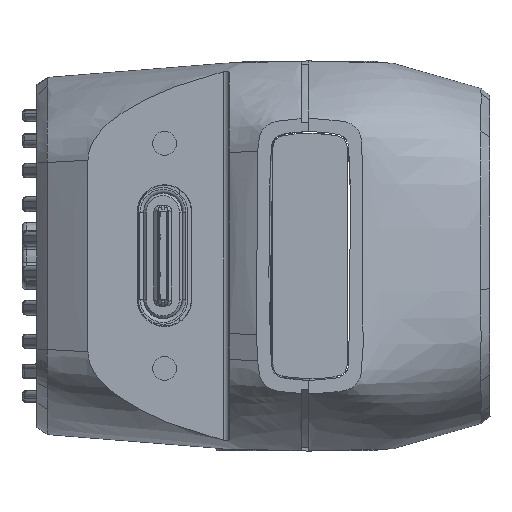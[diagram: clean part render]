
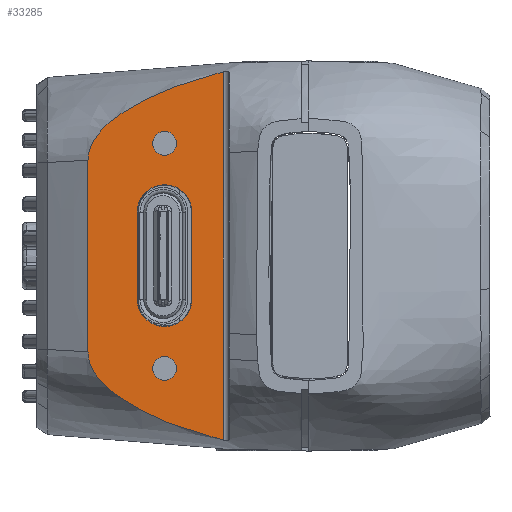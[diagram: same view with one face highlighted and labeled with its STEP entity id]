
A CAD part, left-side view. The second image highlights one B-rep face of the part: STEP entity #33285.
In plain terms, the highlighted planar face has unit normal (-1, 0, 0).
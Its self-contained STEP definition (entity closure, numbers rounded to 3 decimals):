
#18800=DIRECTION('',(0.,0.,-1.));
#18801=VECTOR('',#18800,24.562);
#18802=CARTESIAN_POINT('',(-37.988,-0.459,
12.273));
#18803=LINE('',#18802,#18801);
#18804=CARTESIAN_POINT('',(-37.988,-0.459,
-12.288));
#18805=CARTESIAN_POINT('',(-37.988,-0.172,
-12.226));
#18806=CARTESIAN_POINT('',(-37.988,0.396,
-12.085));
#18807=CARTESIAN_POINT('',(-37.988,1.237,
-11.834));
#18808=CARTESIAN_POINT('',(-37.988,2.07,
-11.555));
#18809=CARTESIAN_POINT('',(-37.988,2.894,
-11.25));
#18810=CARTESIAN_POINT('',(-37.988,3.717,
-10.913));
#18811=CARTESIAN_POINT('',(-37.988,4.557,
-10.528));
#18812=CARTESIAN_POINT('',(-37.988,5.427,
-10.076));
#18813=CARTESIAN_POINT('',(-37.988,6.309,
-9.536));
#18814=CARTESIAN_POINT('',(-37.988,7.1,
-8.943));
#18815=CARTESIAN_POINT('',(-37.988,7.738,
-8.327));
#18816=CARTESIAN_POINT('',(-37.988,8.204,
-7.696));
#18817=CARTESIAN_POINT('',(-37.988,8.49,
-7.028));
#18818=CARTESIAN_POINT('',(-37.988,8.547,
-6.601));
#18819=CARTESIAN_POINT('',(-37.988,8.55,
-6.389));
#18821=CARTESIAN_POINT('',(-37.988,8.55,
6.374));
#18822=CARTESIAN_POINT('',(-37.988,8.565,5.067));
#18823=CARTESIAN_POINT('',(-37.988,8.599,
2.378));
#18824=CARTESIAN_POINT('',(-37.988,8.593,
-1.858));
#18825=CARTESIAN_POINT('',(-37.988,8.574,
-4.852));
#18826=CARTESIAN_POINT('',(-37.988,8.55,
-6.389));
#18828=CARTESIAN_POINT('',(-37.988,8.55,
6.374));
#18829=CARTESIAN_POINT('',(-37.988,8.547,
6.59));
#18830=CARTESIAN_POINT('',(-37.988,8.488,
7.019));
#18831=CARTESIAN_POINT('',(-37.988,8.205,
7.679));
#18832=CARTESIAN_POINT('',(-37.988,7.746,
8.303));
#18833=CARTESIAN_POINT('',(-37.988,7.112,
8.919));
#18834=CARTESIAN_POINT('',(-37.988,6.311,
9.522));
#18835=CARTESIAN_POINT('',(-37.988,5.406,
10.073));
#18836=CARTESIAN_POINT('',(-37.988,4.516,
10.534));
#18837=CARTESIAN_POINT('',(-37.988,3.661,
10.923));
#18838=CARTESIAN_POINT('',(-37.988,2.833,
11.259));
#18839=CARTESIAN_POINT('',(-37.988,2.016,
11.56));
#18840=CARTESIAN_POINT('',(-37.988,1.201,
11.831));
#18841=CARTESIAN_POINT('',(-37.988,0.381,
12.074));
#18842=CARTESIAN_POINT('',(-37.988,-0.177,
12.212));
#18843=CARTESIAN_POINT('',(-37.988,-0.459,
12.273));
#18845=CARTESIAN_POINT('',(-37.988,3.441,
7.5));
#18846=DIRECTION('',(1.,0.,0.));
#18847=DIRECTION('',(0.,-1.,0.));
#18848=AXIS2_PLACEMENT_3D('',#18845,#18846,#18847);
#18850=CARTESIAN_POINT('',(-37.988,3.441,
7.5));
#18851=DIRECTION('',(1.,0.,0.));
#18852=DIRECTION('',(0.,1.,0.));
#18853=AXIS2_PLACEMENT_3D('',#18850,#18851,#18852);
#18855=CARTESIAN_POINT('',(-37.988,3.441,
-7.5));
#18856=DIRECTION('',(1.,0.,0.));
#18857=DIRECTION('',(0.,-1.,0.));
#18858=AXIS2_PLACEMENT_3D('',#18855,#18856,#18857);
#18860=CARTESIAN_POINT('',(-37.988,3.441,
-7.5));
#18861=DIRECTION('',(1.,0.,0.));
#18862=DIRECTION('',(0.,1.,0.));
#18863=AXIS2_PLACEMENT_3D('',#18860,#18861,#18862);
#18865=DIRECTION('',(0.,0.,-1.));
#18866=VECTOR('',#18865,5.8);
#18867=CARTESIAN_POINT('',(-37.988,1.618,
2.918));
#18868=LINE('',#18867,#18866);
#18869=DIRECTION('',(0.,0.,1.));
#18870=VECTOR('',#18869,5.8);
#18871=CARTESIAN_POINT('',(-37.988,5.264,
-2.882));
#18872=LINE('',#18871,#18870);
#21359=CARTESIAN_POINT('',(-37.988,3.441,
-2.882));
#21360=DIRECTION('',(-1.,0.,0.));
#21361=DIRECTION('',(0.,1.,0.));
#21362=AXIS2_PLACEMENT_3D('',#21359,#21360,#21361);
#21391=CARTESIAN_POINT('',(-37.988,3.441,
2.918));
#21392=DIRECTION('',(-1.,0.,0.));
#21393=DIRECTION('',(0.,-1.,0.));
#21394=AXIS2_PLACEMENT_3D('',#21391,#21392,#21393);
#24067=VERTEX_POINT('',#18821);
#24068=VERTEX_POINT('',#18826);
#24069=CARTESIAN_POINT('',(-37.988,4.241,
-7.5));
#24070=CARTESIAN_POINT('',(-37.988,2.641,
-7.5));
#24071=VERTEX_POINT('',#24069);
#24072=VERTEX_POINT('',#24070);
#24073=CARTESIAN_POINT('',(-37.988,4.241,
7.5));
#24074=CARTESIAN_POINT('',(-37.988,2.641,
7.5));
#24075=VERTEX_POINT('',#24073);
#24076=VERTEX_POINT('',#24074);
#24081=CARTESIAN_POINT('',(-37.988,-0.459,
12.273));
#24082=CARTESIAN_POINT('',(-37.988,-0.459,
-12.288));
#24083=VERTEX_POINT('',#24081);
#24084=VERTEX_POINT('',#24082);
#24196=CARTESIAN_POINT('',(-37.988,1.618,
2.918));
#24197=CARTESIAN_POINT('',(-37.988,1.618,
-2.882));
#24198=VERTEX_POINT('',#24196);
#24199=VERTEX_POINT('',#24197);
#24200=CARTESIAN_POINT('',(-37.988,5.264,
2.918));
#24201=VERTEX_POINT('',#24200);
#24202=CARTESIAN_POINT('',(-37.988,5.264,
-2.882));
#24203=VERTEX_POINT('',#24202);
#33255=CARTESIAN_POINT('',(-37.988,-0.859,
12.522));
#33256=DIRECTION('',(-1.,0.,0.));
#33257=DIRECTION('',(0.,1.,0.));
#33258=AXIS2_PLACEMENT_3D('',#33255,#33256,#33257);
#33259=PLANE('',#33258);
#33261=ORIENTED_EDGE('',*,*,#33260,.T.);
#33262=ORIENTED_EDGE('',*,*,#28553,.T.);
#33263=ORIENTED_EDGE('',*,*,#28625,.F.);
#33264=ORIENTED_EDGE('',*,*,#27888,.T.);
#33265=EDGE_LOOP('',(#33261,#33262,#33263,#33264));
#33266=FACE_OUTER_BOUND('',#33265,.F.);
#33267=ORIENTED_EDGE('',*,*,#31929,.F.);
#33268=ORIENTED_EDGE('',*,*,#31913,.F.);
#33269=EDGE_LOOP('',(#33267,#33268));
#33270=FACE_BOUND('',#33269,.F.);
#33271=ORIENTED_EDGE('',*,*,#31899,.F.);
#33272=ORIENTED_EDGE('',*,*,#31883,.F.);
#33273=EDGE_LOOP('',(#33271,#33272));
#33274=FACE_BOUND('',#33273,.F.);
#33276=ORIENTED_EDGE('',*,*,#33275,.T.);
#33278=ORIENTED_EDGE('',*,*,#33277,.F.);
#33280=ORIENTED_EDGE('',*,*,#33279,.T.);
#33282=ORIENTED_EDGE('',*,*,#33281,.F.);
#33283=EDGE_LOOP('',(#33276,#33278,#33280,#33282));
#33284=FACE_BOUND('',#33283,.F.);
#18820=B_SPLINE_CURVE_WITH_KNOTS('',3,(#18804,#18805,#18806,#18807,#18808,
#18809,#18810,#18811,#18812,#18813,#18814,#18815,#18816,#18817,#18818,#18819),
.UNSPECIFIED.,.F.,.F.,(4,1,1,1,1,1,1,1,1,1,1,1,1,4),(0.,0.077,
0.154,0.231,0.308,0.385,
0.462,0.538,0.615,0.692,
0.769,0.846,0.923,1.),.UNSPECIFIED.);
#18827=B_SPLINE_CURVE_WITH_KNOTS('',3,(#18821,#18822,#18823,#18824,#18825,
#18826),.UNSPECIFIED.,.F.,.F.,(4,1,1,4),(0.,0.333,
0.667,1.),.UNSPECIFIED.);
#18844=B_SPLINE_CURVE_WITH_KNOTS('',3,(#18828,#18829,#18830,#18831,#18832,
#18833,#18834,#18835,#18836,#18837,#18838,#18839,#18840,#18841,#18842,#18843),
.UNSPECIFIED.,.F.,.F.,(4,1,1,1,1,1,1,1,1,1,1,1,1,4),(0.,0.077,
0.154,0.231,0.308,0.385,
0.462,0.538,0.615,0.692,
0.769,0.846,0.923,1.),.UNSPECIFIED.);
#18849=CIRCLE('',#18848,0.8);
#18854=CIRCLE('',#18853,0.8);
#18859=CIRCLE('',#18858,0.8);
#18864=CIRCLE('',#18863,0.8);
#21363=CIRCLE('',#21362,1.823);
#21395=CIRCLE('',#21394,1.823);
#27888=EDGE_CURVE('',#24067,#24083,#18844,.T.);
#28553=EDGE_CURVE('',#24084,#24068,#18820,.T.);
#28625=EDGE_CURVE('',#24067,#24068,#18827,.T.);
#31883=EDGE_CURVE('',#24071,#24072,#18864,.T.);
#31899=EDGE_CURVE('',#24072,#24071,#18859,.T.);
#31913=EDGE_CURVE('',#24075,#24076,#18854,.T.);
#31929=EDGE_CURVE('',#24076,#24075,#18849,.T.);
#33260=EDGE_CURVE('',#24083,#24084,#18803,.T.);
#33275=EDGE_CURVE('',#24203,#24199,#21363,.T.);
#33277=EDGE_CURVE('',#24198,#24199,#18868,.T.);
#33279=EDGE_CURVE('',#24198,#24201,#21395,.T.);
#33281=EDGE_CURVE('',#24203,#24201,#18872,.T.);
#33285=ADVANCED_FACE('',(#33266,#33270,#33274,#33284),#33259,.T.);
